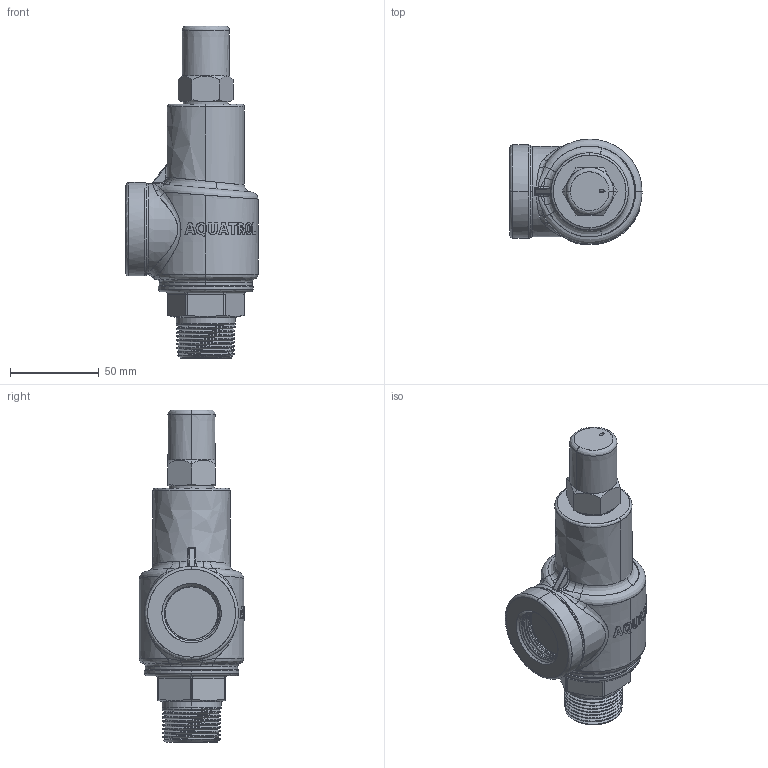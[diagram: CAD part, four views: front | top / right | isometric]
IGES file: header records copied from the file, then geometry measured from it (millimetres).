
Start section: SolidWorks IGES file using analytic representation for surfaces
Global section: file name: C:\Design\Design\Aquatrol\Customer 3D Files\Series 69 Customer Files\Series 69 1000 x 1000\Customer\Series 69 1000 x 1000.IGS; native system: SolidWorks 2015; preprocessor: SolidWorks 2015; author: Karl; date: 141208.092825; units: inch
Bounding box: 74.61 x 59.64 x 187.57 mm (x, y, z)
Surface area: 36089.7 mm2 (no closed solid volume)
Topology: 0 solids, 0 shells, 277 faces, 5835 edges, 5835 vertices
Faces by surface type: bspline 184, revolution 93
